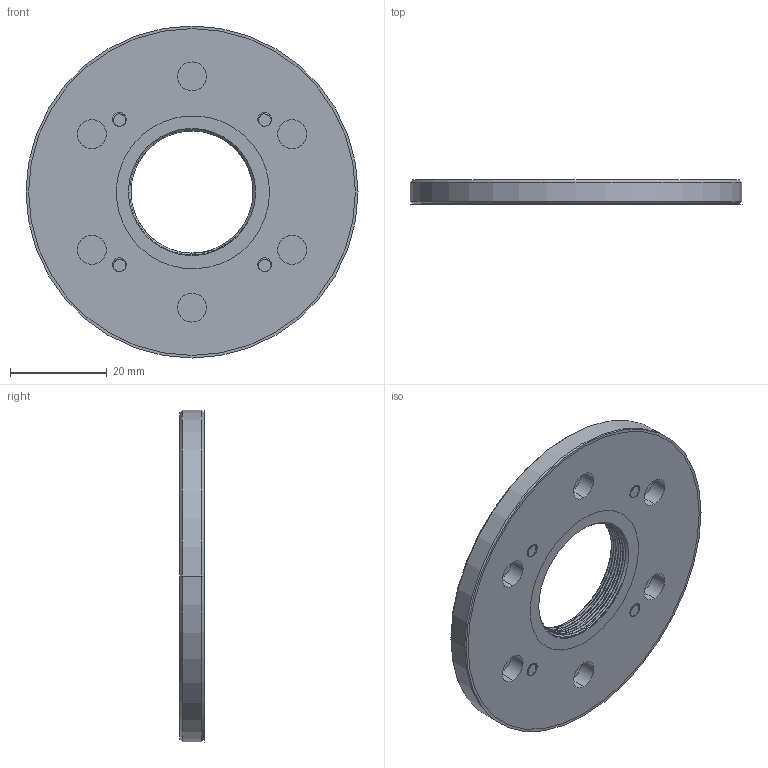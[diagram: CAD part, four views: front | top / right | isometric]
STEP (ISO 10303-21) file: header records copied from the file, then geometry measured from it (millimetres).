
FILE_DESCRIPTION((''),'2;1');
FILE_NAME('MA-OMD3','2024-03-30T10:54:08',('R&D'),(''),'CREO PARAMETRIC BY PTC INC, 2021063','CREO PARAMETRIC BY PTC INC, 2021063','');
FILE_SCHEMA(('CONFIG_CONTROL_DESIGN'));
Length unit declared in the file: millimetre
Products named in the file (1): MA-OMD3
Bounding box: 68.58 x 5 x 68.58 mm (x, y, z)
Volume: 15090.9 mm3; surface area: 11396.2 mm2
Topology: 1 solids, 6 shells, 158 faces, 442 edges, 293 vertices
Faces by surface type: cylinder 97, bspline 44, plane 9, cone 8
Entity records: 14044 total; most frequent: CARTESIAN_POINT 10425, ORIENTED_EDGE 850, DIRECTION 529, EDGE_CURVE 442, VERTEX_POINT 293, B_SPLINE_CURVE_WITH_KNOTS 228, AXIS2_PLACEMENT_3D 200, EDGE_LOOP 181
